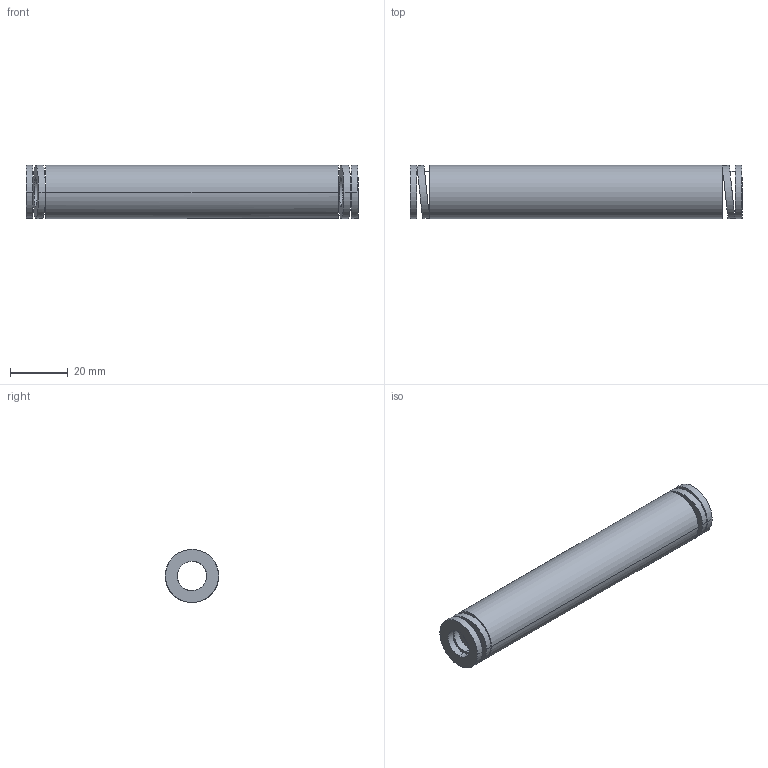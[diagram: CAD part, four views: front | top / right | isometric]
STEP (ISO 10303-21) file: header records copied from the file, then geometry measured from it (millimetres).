
FILE_DESCRIPTION(('CATIA V5 STEP Exchange'),'2;1');
FILE_NAME('C:\Users\Utente\Desktop\IO LAVORO\3D X SITO CF\X SITO\3D files 392B\392-B20-115.stp','2021-08-12T13:46:54+00:00',('none'),('none'),'CATIA Version 5 Release 20 GA (IN-10)','CATIA V5 STEP AP203','none');
FILE_SCHEMA(('CONFIG_CONTROL_DESIGN'));
Length unit declared in the file: millimetre
Products named in the file (1): 392-B20-115
Bounding box: 115 x 18.55 x 18.4 mm (x, y, z)
Volume: 20440.2 mm3; surface area: 11815.1 mm2
Topology: 1 solids, 1 shells, 38 faces, 92 edges, 64 vertices
Faces by surface type: cylinder 28, plane 10
Entity records: 1590 total; most frequent: CARTESIAN_POINT 707, ORIENTED_EDGE 184, DIRECTION 126, EDGE_CURVE 92, VERTEX_POINT 64, AXIS2_PLACEMENT_3D 61, EDGE_LOOP 56, B_SPLINE_CURVE_WITH_KNOTS 42
